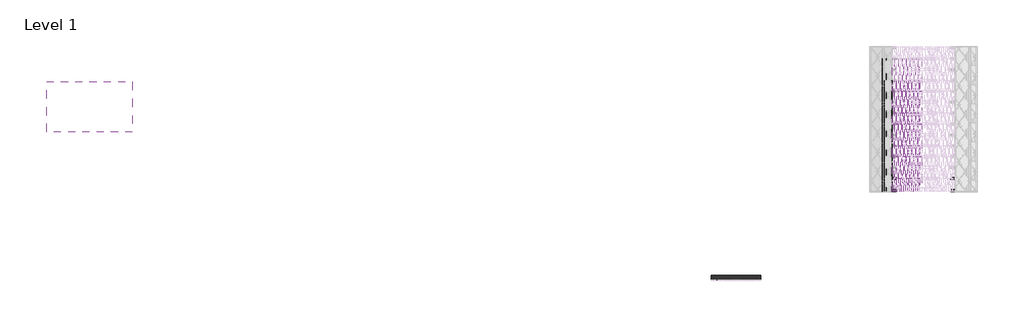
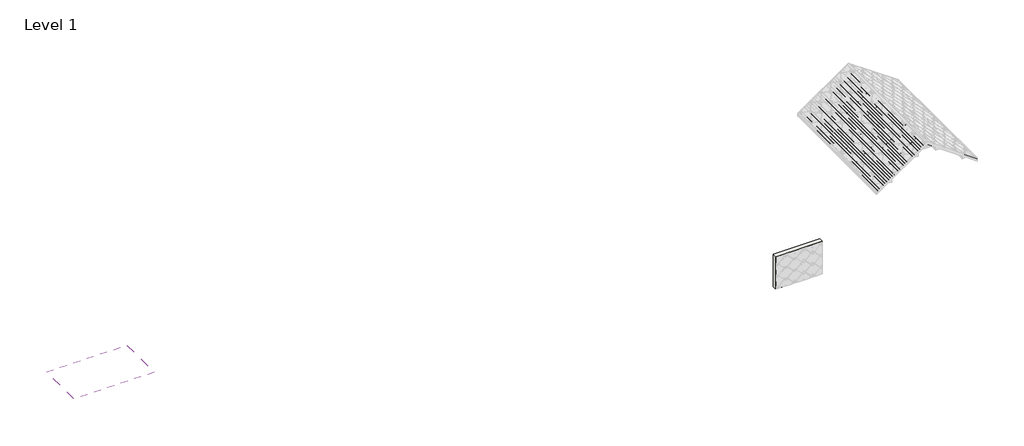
# One storey, part 1 of 6: 106 beams, 1 roof, 1 wall.
"""IFC4 building model written with IfcOpenShell, lengths in millimetres."""

import ifcopenshell
import ifcopenshell.guid

model = None  # the IFC model being written
_history = None  # IfcOwnerHistory: only IFC2X3 demands one
_inside = {}  # id of a spatial element -> (the spatial element, [elements in it])
_under = {}  # id of a project, library or spatial element -> (it, [spatial elements below it])
_declared = {}  # id of a project -> (the project, [libraries it declares])
_typed = {}  # id of a type object -> (the type object, [elements of that type])
_made_of = {}  # id of a material, layer set ... -> (it, [elements and type objects made of it])


def new_model(schema):
    """Start an empty IFC model of exactly this schema.

    Asked for "IFC4X3", IfcOpenShell would pick the latest addendum, in which some entities
    have other attributes; the version numbers below select the first issue.
    IFC2X3 requires an IfcOwnerHistory on every rooted entity: one is made here for all.
    """
    global model, _history
    if schema == "IFC4X3":
        model = ifcopenshell.file(schema_version=(4, 3, 0, 0))
    else:
        model = ifcopenshell.file(schema=schema)
    _inside.clear()
    _under.clear()
    _declared.clear()
    _typed.clear()
    _made_of.clear()
    _history = None
    if model.schema == "IFC2X3":
        org = make("IfcOrganization", Name="unknown")
        user = make(
            "IfcPersonAndOrganization",
            ThePerson=make("IfcPerson", FamilyName="unknown"),
            TheOrganization=org,
        )
        app = make(
            "IfcApplication",
            ApplicationDeveloper=org,
            Version="unknown",
            ApplicationFullName="unknown",
            ApplicationIdentifier="unknown",
        )
        _history = make(
            "IfcOwnerHistory",
            OwningUser=user,
            OwningApplication=app,
            ChangeAction="ADDED",
            CreationDate=0,
        )
    return model


def make(cls, **values):
    """One entity of the class cls with the attributes given. An attribute that is None is left unset."""
    return model.create_entity(
        cls, **{name: value for name, value in values.items() if value is not None}
    )


def rooted(cls, **values):
    """An entity with a GlobalId (a new one), such as an element, a storey or a relation."""
    return make(cls, GlobalId=ifcopenshell.guid.new(), OwnerHistory=_history, **values)


def si_unit(unit_type, name, prefix=None):
    """IfcSIUnit, for example si_unit("LENGTHUNIT", "METRE", prefix="MILLI")."""
    return make("IfcSIUnit", UnitType=unit_type, Prefix=prefix, Name=name)


def assignment(units):
    """IfcUnitAssignment: the units of a project."""
    return None if units is None else make("IfcUnitAssignment", Units=units)


def point(xyz):
    """IfcCartesianPoint."""
    return None if xyz is None else make("IfcCartesianPoint", Coordinates=xyz)


def direction(xyz):
    """IfcDirection."""
    return None if xyz is None else make("IfcDirection", DirectionRatios=xyz)


def frame(location, z_axis=None, x_axis=None):
    """IfcAxis2Placement3D, a coordinate frame: its origin and axes. An axis left out is left unset."""
    return make(
        "IfcAxis2Placement3D",
        Location=point(location),
        Axis=direction(z_axis),
        RefDirection=direction(x_axis),
    )


def origin():
    """The frame at (0, 0, 0) with its axes left unset."""
    return frame((0.0, 0.0, 0.0))


def origin_with_axes():
    """The frame at (0, 0, 0) with the z axis (0, 0, 1) and the x axis (1, 0, 0) written out."""
    return frame((0.0, 0.0, 0.0), z_axis=(0.0, 0.0, 1.0), x_axis=(1.0, 0.0, 0.0))


def place(relative_to, where):
    """IfcLocalPlacement: puts the frame where relative to a parent placement (None: the world)."""
    return make(
        "IfcLocalPlacement", PlacementRelTo=relative_to, RelativePlacement=where
    )


def context(
    kind, dimensions, precision=None, world=None, true_north=None, identifier=None
):
    """IfcGeometricRepresentationContext, for example the 3D "Model" context."""
    return make(
        "IfcGeometricRepresentationContext",
        ContextIdentifier=identifier,
        ContextType=kind,
        CoordinateSpaceDimension=dimensions,
        Precision=precision,
        WorldCoordinateSystem=world,
        TrueNorth=true_north,
    )


def project(units=None, contexts=None):
    """IfcProject with its units and contexts."""
    return rooted(
        "IfcProject",
        Name="project",
        RepresentationContexts=contexts,
        UnitsInContext=assignment(units),
    )


def spatial(cls, under=None, at=None, **own):
    """A site, building, storey or space (cls), placed at a placement, below another one or the project."""
    s = rooted(cls, ObjectPlacement=at, **own)
    if under is not None:
        _under.setdefault(under.id(), (under, []))[1].append(s)
    return s


def polyline(points):
    """IfcPolyline through the points."""
    return make("IfcPolyline", Points=[point(p) for p in points])


def outline(outer, holes=None, kind="AREA"):
    """IfcArbitraryClosedProfileDef: a profile drawn as a closed curve; with holes, ...WithVoids."""
    if holes is None:
        return make("IfcArbitraryClosedProfileDef", ProfileType=kind, OuterCurve=outer)
    return make(
        "IfcArbitraryProfileDefWithVoids",
        ProfileType=kind,
        OuterCurve=outer,
        InnerCurves=holes,
    )


def extrude(swept, where, along, depth):
    """IfcExtrudedAreaSolid: the profile swept, set in the frame where, extruded along a direction by depth."""
    return make(
        "IfcExtrudedAreaSolid",
        SweptArea=swept,
        Position=where,
        ExtrudedDirection=direction(along),
        Depth=depth,
    )


def faces_of(points, faces, orient=None, outer=None):
    """IfcFace entities. A face is a list of loops; a loop is a list of indices into points, from 0.

    orient and outer hold one flag for each loop. By default every Orientation is true, the
    first loop of a face is its IfcFaceOuterBound and the others are IfcFaceBound.
    """
    made = []
    for i, loops in enumerate(faces):
        bounds = []
        for j, loop in enumerate(loops):
            is_outer = j == 0 if outer is None else outer[i][j]
            bounds.append(
                make(
                    "IfcFaceOuterBound" if is_outer else "IfcFaceBound",
                    Bound=make("IfcPolyLoop", Polygon=[points[k] for k in loop]),
                    Orientation=True if orient is None else orient[i][j],
                )
            )
        made.append(make("IfcFace", Bounds=bounds))
    return made


def faceted_brep(points, faces, orient=None, outer=None, voids=None):
    """IfcFacetedBrep: a solid bounded by flat faces; with voids (closed shells), ...WithVoids."""
    shared = [point(p) for p in points]
    hull = make("IfcClosedShell", CfsFaces=faces_of(shared, faces, orient, outer))
    if voids is None:
        return make("IfcFacetedBrep", Outer=hull)
    return make(
        "IfcFacetedBrepWithVoids",
        Outer=hull,
        Voids=[
            make(cls, CfsFaces=faces_of(shared, fs, o, b)) for cls, fs, o, b in voids
        ],
    )


def shape(context_of_items, identifier, shape_type, items):
    """IfcShapeRepresentation: the items that make up one representation, for example the "Body"."""
    return make(
        "IfcShapeRepresentation",
        ContextOfItems=context_of_items,
        RepresentationIdentifier=identifier,
        RepresentationType=shape_type,
        Items=items,
    )


def source(mapping_origin, context_of_items, identifier, shape_type, items):
    """IfcRepresentationMap: a shape defined once, which mapped items show again and again."""
    return make(
        "IfcRepresentationMap",
        MappingOrigin=mapping_origin,
        MappedRepresentation=shape(context_of_items, identifier, shape_type, items),
    )


def transform(
    local_origin,
    x_axis=None,
    y_axis=None,
    z_axis=None,
    scale=None,
    scale2=None,
    scale3=None,
    uniform=True,
):
    """IfcCartesianTransformationOperator3D, or its non-uniform kind. x_axis, y_axis, z_axis: its Axis1, 2, 3."""
    if uniform:
        return make(
            "IfcCartesianTransformationOperator3D",
            Axis1=direction(x_axis),
            Axis2=direction(y_axis),
            LocalOrigin=point(local_origin),
            Scale=scale,
            Axis3=direction(z_axis),
        )
    return make(
        "IfcCartesianTransformationOperator3DnonUniform",
        Axis1=direction(x_axis),
        Axis2=direction(y_axis),
        LocalOrigin=point(local_origin),
        Scale=scale,
        Axis3=direction(z_axis),
        Scale2=scale2,
        Scale3=scale3,
    )


def mapped(mapping_source, mapping_target):
    """IfcMappedItem: shows the shape of a source again, moved by a transform."""
    return make(
        "IfcMappedItem", MappingSource=mapping_source, MappingTarget=mapping_target
    )


def made_of(thing, what):
    """Note that an element or type object is made of a material, layer set ...; save() writes the relation."""
    if what is not None:
        _made_of.setdefault(what.id(), (what, []))[1].append(thing)
    return thing


def element(
    cls,
    number,
    at=None,
    inside=None,
    cuts=None,
    type_object=None,
    material=None,
    context=None,
    identifier="Body",
    shape_type=None,
    held_by="IfcProductDefinitionShape",
    body=None,
    shapes=None,
    **own,
):
    """One element of the class cls, such as IfcWall. Its Tag is "e" and its number.

    at: its placement. inside: the storey or other place that contains it. cuts: it is an
    opening in that element (IfcRelVoidsElement). A single representation is given by context,
    identifier, shape_type and body (its items); several are given by shapes. held_by: the class
    of the entity that holds the representations. save() writes the other relations.
    """
    e = rooted(cls, Tag="e%d" % number, ObjectPlacement=at, **own)
    if body is not None:
        shapes = [shape(context, identifier, shape_type, body)]
    if shapes is not None:
        e.Representation = make(held_by, Representations=shapes)
    if inside is not None:
        _inside.setdefault(inside.id(), (inside, []))[1].append(e)
    if cuts is not None:
        rooted(
            "IfcRelVoidsElement", RelatingBuildingElement=cuts, RelatedOpeningElement=e
        )
    if type_object is not None:
        _typed.setdefault(type_object.id(), (type_object, []))[1].append(e)
    return made_of(e, material)


def aggregate(whole, parts):
    """IfcRelAggregates: a whole, such as a stair, and the parts it consists of."""
    return rooted("IfcRelAggregates", RelatingObject=whole, RelatedObjects=parts)


def save(model, path):
    """Write the relations noted so far, then the file.

    IfcRelAggregates (storeys below a building ...), IfcRelContainedInSpatialStructure (elements
    in a storey), IfcRelDefinesByType, IfcRelAssociatesMaterial and IfcRelDeclares: one each for
    every whole, place, type object, material and project.
    """
    for whole, parts in _under.values():
        aggregate(whole, parts)
    for where, things in _inside.values():
        rooted(
            "IfcRelContainedInSpatialStructure",
            RelatedElements=things,
            RelatingStructure=where,
        )
    for kind, things in _typed.values():
        rooted("IfcRelDefinesByType", RelatedObjects=things, RelatingType=kind)
    for what, things in _made_of.values():
        rooted("IfcRelAssociatesMaterial", RelatedObjects=things, RelatingMaterial=what)
    for by, libraries in _declared.values():
        rooted("IfcRelDeclares", RelatingContext=by, RelatedDefinitions=libraries)
    model.write(path)


def structural_framing_100_structural_framing_15_5def26a6(model_context):
    return source(origin(), model_context, "Body", "SweptSolid", [
        extrude(outline(polyline([(0.0, -174.3446796), (0.0, 0.0), (2400.0, 0.0), (2400.0, -174.3446796), (0.0, -174.3446796)])), frame((1206.7789073, 3925.5508021, 2800.0), z_axis=(-0.5735764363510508, 0.0, 0.8191520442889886), x_axis=(0.0, -1.0, 0.0)), (0.0, 0.0, 1.0), 25.0),
    ])


def structural_framing_101_structural_framing_15_d9cf2b80(model_context):
    return source(origin(), model_context, "Body", "SweptSolid", [
        extrude(outline(polyline([(0.0, -174.3446796), (0.0, 0.0), (2400.0, 0.0), (2400.0, -174.3446796), (0.0, -174.3446796)])), frame((1206.7789073, 3995.5508021, 2800.0), z_axis=(-0.5735764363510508, 0.0, 0.8191520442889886), x_axis=(0.0, -1.0, 0.0)), (0.0, 0.0, 1.0), 25.0),
    ])


def structural_framing_103_structural_framing_15_b869128d(model_context):
    return source(origin(), model_context, "Body", "SweptSolid", [
        extrude(outline(polyline([(0.0, -174.3446796), (0.0, 0.0), (2558.4556079, 0.0), (2558.4556079, -174.3446796), (0.0, -174.3446796)])), frame((1206.7789073, 3995.5508021, 2800.0), z_axis=(-0.5735764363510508, 0.0, 0.8191520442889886), x_axis=(0.0, -1.0, 0.0)), (0.0, 0.0, 1.0), 25.0),
    ])


def structural_framing_109_structural_framing_15_08dff260(model_context):
    return source(origin(), model_context, "Body", "SweptSolid", [
        extrude(outline(polyline([(0.0, -174.3446796), (0.0, 0.0), (958.4556079, 0.0), (958.4556079, -174.3446796), (0.0, -174.3446796)])), frame((1206.7789073, 3925.5508021, 2800.0), z_axis=(-0.5735764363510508, 0.0, 0.8191520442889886), x_axis=(0.0, -1.0, 0.0)), (0.0, 0.0, 1.0), 25.0),
    ])


def structural_framing_1_structural_framing_1_4f4e03de(model_context):
    return source(origin(), model_context, "Body", "SweptSolid", [
        extrude(outline(polyline([(2800.0, 1206.7789073), (51.1319528, -2719.0115151), (-144.1919814, -2719.0115151), (542.0114061, -1739.0115151), (656.0155568, -1739.0115151), (656.0155568, -1576.1967145), (1975.9524969, 308.8685956), (2089.9566477, 308.8685956), (2089.9566477, 471.6833963), (2604.6760658, 1206.7789073), (2089.9566477, 1941.8744183), (2089.9566477, 2104.6892189), (1975.9524969, 2104.6892189), (656.0155568, 3989.754529), (656.0155568, 4152.5693297), (542.0114061, 4152.5693297), (-144.1919814, 5132.5693297), (51.1319528, 5132.5693297), (2800.0, 1206.7789073)])), frame((0.0, 3785.5508021, 0.0), z_axis=(0.0, 1.0, 0.0), x_axis=(0.0, 0.0, 1.0)), (0.0, 0.0, 1.0), 140.0),
    ])


def structural_framing_14_structural_framing_1_1f79d0da(model_context):
    return source(origin(), model_context, "Body", "Brep", [
        faceted_brep([(1206.7789073, 3925.5508021, 2800.0), (5132.5693297, 3925.5508021, 51.1319528), (5132.5693297, 3925.5508021, -144.1919814), (4152.5693297, 3925.5508021, 542.0114061), (4152.5693297, 3925.5508021, 656.0155568), (3989.754529, 3925.5508021, 656.0155568), (2104.6892189, 3925.5508021, 1975.9524969), (2104.6892189, 3925.5508021, 2089.9566477), (1941.8744183, 3925.5508021, 2089.9566477), (1206.7789073, 3925.5508021, 2604.6760658), (471.6833963, 3925.5508021, 2089.9566477), (308.8685956, 3925.5508021, 2089.9566477), (308.8685956, 3925.5508021, 1975.9524969), (-1576.1967145, 3925.5508021, 656.0155568), (-1739.0115151, 3925.5508021, 656.0155568), (-1739.0115151, 3925.5508021, 542.0114061), (-2719.0115151, 3925.5508021, -144.1919814), (-2719.0115151, 3925.5508021, 51.1319528), (1206.7789073, 3785.5508021, 2800.0), (-2719.0115151, 3785.5508021, 51.1319528), (-2719.0115151, 3785.5508021, -144.1919814), (1206.7789073, 3785.5508021, 2604.6760658), (5132.5693297, 3785.5508021, -144.1919814), (5132.5693297, 3785.5508021, 51.1319528), (1941.8744183, 3906.5064101, 2089.9566477), (2104.6892189, 3906.5064101, 1975.9524969), (3989.754529, 3906.5064101, 656.0155568), (4152.5693297, 3906.5064101, 542.0114061), (-1739.0115151, 3906.5064101, 542.0114061), (-1576.1967145, 3906.5064101, 656.0155568), (308.8685956, 3906.5064101, 1975.9524969), (471.6833963, 3906.5064101, 2089.9566477), (4152.5693297, 3906.5064101, 656.0155568), (-1739.0115151, 3906.5064101, 656.0155568), (308.8685956, 3906.5064101, 2089.9566477), (2104.6892189, 3906.5064101, 2089.9566477)], [[[0, 1, 2, 3, 4, 5, 6, 7, 8, 9, 10, 11, 12, 13, 14, 15, 16, 17]], [[18, 19, 20, 21, 22, 23]], [[1, 0, 18, 23]], [[2, 1, 23, 22]], [[22, 21, 9, 8, 24, 25, 6, 5, 26, 27, 3, 2]], [[21, 20, 16, 15, 28, 29, 13, 12, 30, 31, 10, 9]], [[17, 16, 20, 19]], [[0, 17, 19, 18]], [[32, 27, 26]], [[29, 33, 14, 13]], [[33, 28, 15, 14]], [[27, 32, 4, 3]], [[32, 26, 5, 4]], [[31, 34, 11, 10]], [[34, 30, 12, 11]], [[25, 35, 7, 6]], [[35, 24, 8, 7]], [[35, 25, 24]], [[34, 31, 30]], [[33, 29, 28]]]),
    ])


model = new_model("IFC4")

# Units and contexts
model_context = context("Model", 3, world=origin())
ifc_project = project(units=[si_unit("LENGTHUNIT", "METRE", prefix="MILLI")], contexts=[model_context])

# Site, building, storey
site = spatial("IfcSite", under=ifc_project)
building = spatial("IfcBuilding", under=site)
storey = spatial("IfcBuildingStorey", under=building, Name="Level 1", Elevation=0.0)

# Beams
placement = place(None, origin())
structural_framing_100_structural_framing_15_shape = structural_framing_100_structural_framing_15_5def26a6(model_context)
element("IfcBeam", 1, ObjectType="Structural Framing 100 : Structural Framing 15", at=placement, inside=storey, context=model_context, shape_type="MappedRepresentation", body=[
    mapped(structural_framing_100_structural_framing_15_shape, transform((-2427.8516115, -870.0, -1700.0), x_axis=(1.0, 0.0, 0.0), y_axis=(0.0, 1.0, 0.0), z_axis=(0.0, 0.0, 1.0))),
])
structural_framing_101_structural_framing_15_shape = structural_framing_101_structural_framing_15_d9cf2b80(model_context)
element("IfcBeam", 2, ObjectType="Structural Framing 101 : Structural Framing 15", at=placement, inside=storey, context=model_context, shape_type="MappedRepresentation", body=[
    mapped(structural_framing_101_structural_framing_15_shape, transform((-2427.8516115, -3340.0, -1700.0), x_axis=(1.0, 0.0, 0.0), y_axis=(0.0, 1.0, 0.0), z_axis=(0.0, 0.0, 1.0))),
])
element("IfcBeam", 3, ObjectType="Structural Framing 102 : Structural Framing 15", at=placement, inside=storey, context=model_context, shape_type="MappedRepresentation", body=[
    mapped(structural_framing_101_structural_framing_15_shape, transform((-2427.8516115, -5740.0, -1700.0), x_axis=(1.0, 0.0, 0.0), y_axis=(0.0, 1.0, 0.0), z_axis=(0.0, 0.0, 1.0))),
])
structural_framing_103_structural_framing_15_shape = structural_framing_103_structural_framing_15_b869128d(model_context)
element("IfcBeam", 4, ObjectType="Structural Framing 103 : Structural Framing 15", at=placement, inside=storey, context=model_context, shape_type="MappedRepresentation", body=[
    mapped(structural_framing_103_structural_framing_15_shape, transform((-2427.8516115, -8140.0, -1700.0), x_axis=(1.0, 0.0, 0.0), y_axis=(0.0, 1.0, 0.0), z_axis=(0.0, 0.0, 1.0))),
])
element("IfcBeam", 5, ObjectType="Structural Framing 106 : Structural Framing 15", at=placement, inside=storey, context=model_context, shape_type="MappedRepresentation", body=[
    mapped(structural_framing_100_structural_framing_15_shape, transform((-2570.6664121, -2470.0, -1800.0), x_axis=(1.0, 0.0, 0.0), y_axis=(0.0, 1.0, 0.0), z_axis=(0.0, 0.0, 1.0))),
])
element("IfcBeam", 6, ObjectType="Structural Framing 107 : Structural Framing 15", at=placement, inside=storey, context=model_context, shape_type="MappedRepresentation", body=[
    mapped(structural_framing_100_structural_framing_15_shape, transform((-2570.6664121, -4870.0, -1800.0), x_axis=(1.0, 0.0, 0.0), y_axis=(0.0, 1.0, 0.0), z_axis=(0.0, 0.0, 1.0))),
])
element("IfcBeam", 7, ObjectType="Structural Framing 108 : Structural Framing 15", at=placement, inside=storey, context=model_context, shape_type="MappedRepresentation", body=[
    mapped(structural_framing_100_structural_framing_15_shape, transform((-2570.6664121, -7270.0, -1800.0), x_axis=(1.0, 0.0, 0.0), y_axis=(0.0, 1.0, 0.0), z_axis=(0.0, 0.0, 1.0))),
])
structural_framing_109_structural_framing_15_shape = structural_framing_109_structural_framing_15_08dff260(model_context)
element("IfcBeam", 8, ObjectType="Structural Framing 109 : Structural Framing 15", at=placement, inside=storey, context=model_context, shape_type="MappedRepresentation", body=[
    mapped(structural_framing_109_structural_framing_15_shape, transform((-2570.6664121, -9670.0, -1800.0), x_axis=(1.0, 0.0, 0.0), y_axis=(0.0, 1.0, 0.0), z_axis=(0.0, 0.0, 1.0))),
])
element("IfcBeam", 9, ObjectType="Structural Framing 110 : Structural Framing 15", at=placement, inside=storey, context=model_context, shape_type="MappedRepresentation", body=[
    mapped(structural_framing_100_structural_framing_15_shape, transform((-2713.4812128, -870.0, -1900.0), x_axis=(1.0, 0.0, 0.0), y_axis=(0.0, 1.0, 0.0), z_axis=(0.0, 0.0, 1.0))),
])
element("IfcBeam", 10, ObjectType="Structural Framing 111 : Structural Framing 15", at=placement, inside=storey, context=model_context, shape_type="MappedRepresentation", body=[
    mapped(structural_framing_101_structural_framing_15_shape, transform((-2713.4812128, -3340.0, -1900.0), x_axis=(1.0, 0.0, 0.0), y_axis=(0.0, 1.0, 0.0), z_axis=(0.0, 0.0, 1.0))),
])
element("IfcBeam", 11, ObjectType="Structural Framing 112 : Structural Framing 15", at=placement, inside=storey, context=model_context, shape_type="MappedRepresentation", body=[
    mapped(structural_framing_101_structural_framing_15_shape, transform((-2713.4812128, -5740.0, -1900.0), x_axis=(1.0, 0.0, 0.0), y_axis=(0.0, 1.0, 0.0), z_axis=(0.0, 0.0, 1.0))),
])
element("IfcBeam", 12, ObjectType="Structural Framing 113 : Structural Framing 15", at=placement, inside=storey, context=model_context, shape_type="MappedRepresentation", body=[
    mapped(structural_framing_103_structural_framing_15_shape, transform((-2713.4812128, -8140.0, -1900.0), x_axis=(1.0, 0.0, 0.0), y_axis=(0.0, 1.0, 0.0), z_axis=(0.0, 0.0, 1.0))),
])
element("IfcBeam", 13, ObjectType="Structural Framing 116 : Structural Framing 15", at=placement, inside=storey, context=model_context, shape_type="MappedRepresentation", body=[
    mapped(structural_framing_100_structural_framing_15_shape, transform((-2856.2960135, -2470.0, -2000.0), x_axis=(1.0, 0.0, 0.0), y_axis=(0.0, 1.0, 0.0), z_axis=(0.0, 0.0, 1.0))),
])
element("IfcBeam", 14, ObjectType="Structural Framing 117 : Structural Framing 15", at=placement, inside=storey, context=model_context, shape_type="MappedRepresentation", body=[
    mapped(structural_framing_100_structural_framing_15_shape, transform((-2856.2960135, -4870.0, -2000.0), x_axis=(1.0, 0.0, 0.0), y_axis=(0.0, 1.0, 0.0), z_axis=(0.0, 0.0, 1.0))),
])
element("IfcBeam", 15, ObjectType="Structural Framing 118 : Structural Framing 15", at=placement, inside=storey, context=model_context, shape_type="MappedRepresentation", body=[
    mapped(structural_framing_100_structural_framing_15_shape, transform((-2856.2960135, -7270.0, -2000.0), x_axis=(1.0, 0.0, 0.0), y_axis=(0.0, 1.0, 0.0), z_axis=(0.0, 0.0, 1.0))),
])
element("IfcBeam", 16, ObjectType="Structural Framing 119 : Structural Framing 15", at=placement, inside=storey, context=model_context, shape_type="MappedRepresentation", body=[
    mapped(structural_framing_109_structural_framing_15_shape, transform((-2856.2960135, -9670.0, -2000.0), x_axis=(1.0, 0.0, 0.0), y_axis=(0.0, 1.0, 0.0), z_axis=(0.0, 0.0, 1.0))),
])
element("IfcBeam", 17, ObjectType="Structural Framing 120 : Structural Framing 15", at=placement, inside=storey, context=model_context, shape_type="MappedRepresentation", body=[
    mapped(structural_framing_100_structural_framing_15_shape, transform((-2999.1108142, -870.0, -2100.0), x_axis=(1.0, 0.0, 0.0), y_axis=(0.0, 1.0, 0.0), z_axis=(0.0, 0.0, 1.0))),
])
element("IfcBeam", 18, ObjectType="Structural Framing 121 : Structural Framing 15", at=placement, inside=storey, context=model_context, shape_type="MappedRepresentation", body=[
    mapped(structural_framing_101_structural_framing_15_shape, transform((-2999.1108142, -3340.0, -2100.0), x_axis=(1.0, 0.0, 0.0), y_axis=(0.0, 1.0, 0.0), z_axis=(0.0, 0.0, 1.0))),
])
element("IfcBeam", 19, ObjectType="Structural Framing 122 : Structural Framing 15", at=placement, inside=storey, context=model_context, shape_type="MappedRepresentation", body=[
    mapped(structural_framing_101_structural_framing_15_shape, transform((-2999.1108142, -5740.0, -2100.0), x_axis=(1.0, 0.0, 0.0), y_axis=(0.0, 1.0, 0.0), z_axis=(0.0, 0.0, 1.0))),
])
element("IfcBeam", 20, ObjectType="Structural Framing 123 : Structural Framing 15", at=placement, inside=storey, context=model_context, shape_type="MappedRepresentation", body=[
    mapped(structural_framing_103_structural_framing_15_shape, transform((-2999.1108142, -8140.0, -2100.0), x_axis=(1.0, 0.0, 0.0), y_axis=(0.0, 1.0, 0.0), z_axis=(0.0, 0.0, 1.0))),
])
element("IfcBeam", 21, ObjectType="Structural Framing 126 : Structural Framing 15", at=placement, inside=storey, context=model_context, shape_type="MappedRepresentation", body=[
    mapped(structural_framing_100_structural_framing_15_shape, transform((-3141.9256148, -2470.0, -2200.0), x_axis=(1.0, 0.0, 0.0), y_axis=(0.0, 1.0, 0.0), z_axis=(0.0, 0.0, 1.0))),
])
element("IfcBeam", 22, ObjectType="Structural Framing 127 : Structural Framing 15", at=placement, inside=storey, context=model_context, shape_type="MappedRepresentation", body=[
    mapped(structural_framing_100_structural_framing_15_shape, transform((-3141.9256148, -4870.0, -2200.0), x_axis=(1.0, 0.0, 0.0), y_axis=(0.0, 1.0, 0.0), z_axis=(0.0, 0.0, 1.0))),
])
element("IfcBeam", 23, ObjectType="Structural Framing 128 : Structural Framing 15", at=placement, inside=storey, context=model_context, shape_type="MappedRepresentation", body=[
    mapped(structural_framing_100_structural_framing_15_shape, transform((-3141.9256148, -7270.0, -2200.0), x_axis=(1.0, 0.0, 0.0), y_axis=(0.0, 1.0, 0.0), z_axis=(0.0, 0.0, 1.0))),
])
element("IfcBeam", 24, ObjectType="Structural Framing 129 : Structural Framing 15", at=placement, inside=storey, context=model_context, shape_type="MappedRepresentation", body=[
    mapped(structural_framing_109_structural_framing_15_shape, transform((-3141.9256148, -9670.0, -2200.0), x_axis=(1.0, 0.0, 0.0), y_axis=(0.0, 1.0, 0.0), z_axis=(0.0, 0.0, 1.0))),
])
structural_framing_1_structural_framing_1_shape = structural_framing_1_structural_framing_1_4f4e03de(model_context)
element("IfcBeam", 25, ObjectType="Structural Framing 13 : Structural Framing 1", at=placement, inside=storey, context=model_context, shape_type="MappedRepresentation", body=[
    mapped(structural_framing_1_structural_framing_1_shape, transform((0.0, -9600.0, 0.0), x_axis=(1.0, 0.0, 0.0), y_axis=(0.0, 1.0, 0.0), z_axis=(0.0, 0.0, 1.0))),
])
element("IfcBeam", 26, ObjectType="Structural Framing 130 : Structural Framing 15", at=placement, inside=storey, context=model_context, shape_type="MappedRepresentation", body=[
    mapped(structural_framing_100_structural_framing_15_shape, transform((-3284.7404155, -870.0, -2300.0), x_axis=(1.0, 0.0, 0.0), y_axis=(0.0, 1.0, 0.0), z_axis=(0.0, 0.0, 1.0))),
])
element("IfcBeam", 27, ObjectType="Structural Framing 131 : Structural Framing 15", at=placement, inside=storey, context=model_context, shape_type="MappedRepresentation", body=[
    mapped(structural_framing_101_structural_framing_15_shape, transform((-3284.7404155, -3340.0, -2300.0), x_axis=(1.0, 0.0, 0.0), y_axis=(0.0, 1.0, 0.0), z_axis=(0.0, 0.0, 1.0))),
])
element("IfcBeam", 28, ObjectType="Structural Framing 132 : Structural Framing 15", at=placement, inside=storey, context=model_context, shape_type="MappedRepresentation", body=[
    mapped(structural_framing_101_structural_framing_15_shape, transform((-3284.7404155, -5740.0, -2300.0), x_axis=(1.0, 0.0, 0.0), y_axis=(0.0, 1.0, 0.0), z_axis=(0.0, 0.0, 1.0))),
])
element("IfcBeam", 29, ObjectType="Structural Framing 133 : Structural Framing 15", at=placement, inside=storey, context=model_context, shape_type="MappedRepresentation", body=[
    mapped(structural_framing_103_structural_framing_15_shape, transform((-3284.7404155, -8140.0, -2300.0), x_axis=(1.0, 0.0, 0.0), y_axis=(0.0, 1.0, 0.0), z_axis=(0.0, 0.0, 1.0))),
])
element("IfcBeam", 30, ObjectType="Structural Framing 136 : Structural Framing 15", at=placement, inside=storey, context=model_context, shape_type="MappedRepresentation", body=[
    mapped(structural_framing_100_structural_framing_15_shape, transform((-3427.5552162, -2470.0, -2400.0), x_axis=(1.0, 0.0, 0.0), y_axis=(0.0, 1.0, 0.0), z_axis=(0.0, 0.0, 1.0))),
])
element("IfcBeam", 31, ObjectType="Structural Framing 137 : Structural Framing 15", at=placement, inside=storey, context=model_context, shape_type="MappedRepresentation", body=[
    mapped(structural_framing_100_structural_framing_15_shape, transform((-3427.5552162, -4870.0, -2400.0), x_axis=(1.0, 0.0, 0.0), y_axis=(0.0, 1.0, 0.0), z_axis=(0.0, 0.0, 1.0))),
])
element("IfcBeam", 32, ObjectType="Structural Framing 138 : Structural Framing 15", at=placement, inside=storey, context=model_context, shape_type="MappedRepresentation", body=[
    mapped(structural_framing_100_structural_framing_15_shape, transform((-3427.5552162, -7270.0, -2400.0), x_axis=(1.0, 0.0, 0.0), y_axis=(0.0, 1.0, 0.0), z_axis=(0.0, 0.0, 1.0))),
])
element("IfcBeam", 33, ObjectType="Structural Framing 139 : Structural Framing 15", at=placement, inside=storey, context=model_context, shape_type="MappedRepresentation", body=[
    mapped(structural_framing_109_structural_framing_15_shape, transform((-3427.5552162, -9670.0, -2400.0), x_axis=(1.0, 0.0, 0.0), y_axis=(0.0, 1.0, 0.0), z_axis=(0.0, 0.0, 1.0))),
])
structural_framing_14_structural_framing_1_shape = structural_framing_14_structural_framing_1_1f79d0da(model_context)
element("IfcBeam", 34, ObjectType="Structural Framing 14 : Structural Framing 1", at=placement, inside=storey, context=model_context, shape_type="MappedRepresentation", body=[
    mapped(structural_framing_14_structural_framing_1_shape, transform((0.0, -10488.455608, 0.0), x_axis=(1.0, 0.0, 0.0), y_axis=(0.0, 1.0, 0.0), z_axis=(0.0, 0.0, 1.0))),
])
element("IfcBeam", 35, ObjectType="Structural Framing 140 : Structural Framing 15", at=placement, inside=storey, context=model_context, shape_type="MappedRepresentation", body=[
    mapped(structural_framing_100_structural_framing_15_shape, transform((-3570.3700169, -870.0, -2500.0), x_axis=(1.0, 0.0, 0.0), y_axis=(0.0, 1.0, 0.0), z_axis=(0.0, 0.0, 1.0))),
])
element("IfcBeam", 36, ObjectType="Structural Framing 141 : Structural Framing 15", at=placement, inside=storey, context=model_context, shape_type="MappedRepresentation", body=[
    mapped(structural_framing_101_structural_framing_15_shape, transform((-3570.3700169, -3340.0, -2500.0), x_axis=(1.0, 0.0, 0.0), y_axis=(0.0, 1.0, 0.0), z_axis=(0.0, 0.0, 1.0))),
])
element("IfcBeam", 37, ObjectType="Structural Framing 142 : Structural Framing 15", at=placement, inside=storey, context=model_context, shape_type="MappedRepresentation", body=[
    mapped(structural_framing_101_structural_framing_15_shape, transform((-3570.3700169, -5740.0, -2500.0), x_axis=(1.0, 0.0, 0.0), y_axis=(0.0, 1.0, 0.0), z_axis=(0.0, 0.0, 1.0))),
])
element("IfcBeam", 38, ObjectType="Structural Framing 143 : Structural Framing 15", at=placement, inside=storey, context=model_context, shape_type="MappedRepresentation", body=[
    mapped(structural_framing_103_structural_framing_15_shape, transform((-3570.3700169, -8140.0, -2500.0), x_axis=(1.0, 0.0, 0.0), y_axis=(0.0, 1.0, 0.0), z_axis=(0.0, 0.0, 1.0))),
])
element("IfcBeam", 39, ObjectType="Structural Framing 146 : Structural Framing 15", at=placement, inside=storey, context=model_context, shape_type="MappedRepresentation", body=[
    mapped(structural_framing_100_structural_framing_15_shape, transform((-3713.1848175, -2470.0, -2600.0), x_axis=(1.0, 0.0, 0.0), y_axis=(0.0, 1.0, 0.0), z_axis=(0.0, 0.0, 1.0))),
])
element("IfcBeam", 40, ObjectType="Structural Framing 147 : Structural Framing 15", at=placement, inside=storey, context=model_context, shape_type="MappedRepresentation", body=[
    mapped(structural_framing_100_structural_framing_15_shape, transform((-3713.1848175, -4870.0, -2600.0), x_axis=(1.0, 0.0, 0.0), y_axis=(0.0, 1.0, 0.0), z_axis=(0.0, 0.0, 1.0))),
])
element("IfcBeam", 41, ObjectType="Structural Framing 148 : Structural Framing 15", at=placement, inside=storey, context=model_context, shape_type="MappedRepresentation", body=[
    mapped(structural_framing_100_structural_framing_15_shape, transform((-3713.1848175, -7270.0, -2600.0), x_axis=(1.0, 0.0, 0.0), y_axis=(0.0, 1.0, 0.0), z_axis=(0.0, 0.0, 1.0))),
])
element("IfcBeam", 42, ObjectType="Structural Framing 149 : Structural Framing 15", at=placement, inside=storey, context=model_context, shape_type="MappedRepresentation", body=[
    mapped(structural_framing_109_structural_framing_15_shape, transform((-3713.1848175, -9670.0, -2600.0), x_axis=(1.0, 0.0, 0.0), y_axis=(0.0, 1.0, 0.0), z_axis=(0.0, 0.0, 1.0))),
])
element("IfcBeam", 43, ObjectType="Structural Framing 20 : Structural Framing 15", at=placement, inside=storey, context=model_context, shape_type="MappedRepresentation", body=[
    mapped(structural_framing_100_structural_framing_15_shape, transform((-142.8148007, -870.0, -100.0), x_axis=(1.0, 0.0, 0.0), y_axis=(0.0, 1.0, 0.0), z_axis=(0.0, 0.0, 1.0))),
])
element("IfcBeam", 44, ObjectType="Structural Framing 21 : Structural Framing 15", at=placement, inside=storey, context=model_context, shape_type="MappedRepresentation", body=[
    mapped(structural_framing_101_structural_framing_15_shape, transform((-142.8148007, -3340.0, -100.0), x_axis=(1.0, 0.0, 0.0), y_axis=(0.0, 1.0, 0.0), z_axis=(0.0, 0.0, 1.0))),
])
element("IfcBeam", 45, ObjectType="Structural Framing 22 : Structural Framing 15", at=placement, inside=storey, context=model_context, shape_type="MappedRepresentation", body=[
    mapped(structural_framing_101_structural_framing_15_shape, transform((-142.8148007, -5740.0, -100.0), x_axis=(1.0, 0.0, 0.0), y_axis=(0.0, 1.0, 0.0), z_axis=(0.0, 0.0, 1.0))),
])
element("IfcBeam", 46, ObjectType="Structural Framing 23 : Structural Framing 15", at=placement, inside=storey, context=model_context, shape_type="MappedRepresentation", body=[
    mapped(structural_framing_103_structural_framing_15_shape, transform((-142.8148007, -8140.0, -100.0), x_axis=(1.0, 0.0, 0.0), y_axis=(0.0, 1.0, 0.0), z_axis=(0.0, 0.0, 1.0))),
])
element("IfcBeam", 47, ObjectType="Structural Framing 26 : Structural Framing 15", at=placement, inside=storey, context=model_context, shape_type="MappedRepresentation", body=[
    mapped(structural_framing_100_structural_framing_15_shape, transform((-285.6296013, -2470.0, -200.0), x_axis=(1.0, 0.0, 0.0), y_axis=(0.0, 1.0, 0.0), z_axis=(0.0, 0.0, 1.0))),
])
element("IfcBeam", 48, ObjectType="Structural Framing 27 : Structural Framing 15", at=placement, inside=storey, context=model_context, shape_type="MappedRepresentation", body=[
    mapped(structural_framing_100_structural_framing_15_shape, transform((-285.6296013, -4870.0, -200.0), x_axis=(1.0, 0.0, 0.0), y_axis=(0.0, 1.0, 0.0), z_axis=(0.0, 0.0, 1.0))),
])
element("IfcBeam", 49, ObjectType="Structural Framing 28 : Structural Framing 15", at=placement, inside=storey, context=model_context, shape_type="MappedRepresentation", body=[
    mapped(structural_framing_100_structural_framing_15_shape, transform((-285.6296013, -7270.0, -200.0), x_axis=(1.0, 0.0, 0.0), y_axis=(0.0, 1.0, 0.0), z_axis=(0.0, 0.0, 1.0))),
])
element("IfcBeam", 50, ObjectType="Structural Framing 29 : Structural Framing 15", at=placement, inside=storey, context=model_context, shape_type="MappedRepresentation", body=[
    mapped(structural_framing_109_structural_framing_15_shape, transform((-285.6296013, -9670.0, -200.0), x_axis=(1.0, 0.0, 0.0), y_axis=(0.0, 1.0, 0.0), z_axis=(0.0, 0.0, 1.0))),
])
element("IfcBeam", 51, ObjectType="Structural Framing 30 : Structural Framing 15", at=placement, inside=storey, context=model_context, shape_type="MappedRepresentation", body=[
    mapped(structural_framing_100_structural_framing_15_shape, transform((-428.444402, -870.0, -300.0), x_axis=(1.0, 0.0, 0.0), y_axis=(0.0, 1.0, 0.0), z_axis=(0.0, 0.0, 1.0))),
])
element("IfcBeam", 52, ObjectType="Structural Framing 31 : Structural Framing 15", at=placement, inside=storey, context=model_context, shape_type="MappedRepresentation", body=[
    mapped(structural_framing_101_structural_framing_15_shape, transform((-428.444402, -3340.0, -300.0), x_axis=(1.0, 0.0, 0.0), y_axis=(0.0, 1.0, 0.0), z_axis=(0.0, 0.0, 1.0))),
])
element("IfcBeam", 53, ObjectType="Structural Framing 32 : Structural Framing 15", at=placement, inside=storey, context=model_context, shape_type="MappedRepresentation", body=[
    mapped(structural_framing_101_structural_framing_15_shape, transform((-428.444402, -5740.0, -300.0), x_axis=(1.0, 0.0, 0.0), y_axis=(0.0, 1.0, 0.0), z_axis=(0.0, 0.0, 1.0))),
])
element("IfcBeam", 54, ObjectType="Structural Framing 33 : Structural Framing 15", at=placement, inside=storey, context=model_context, shape_type="MappedRepresentation", body=[
    mapped(structural_framing_103_structural_framing_15_shape, transform((-428.444402, -8140.0, -300.0), x_axis=(1.0, 0.0, 0.0), y_axis=(0.0, 1.0, 0.0), z_axis=(0.0, 0.0, 1.0))),
])
element("IfcBeam", 55, ObjectType="Structural Framing 36 : Structural Framing 15", at=placement, inside=storey, context=model_context, shape_type="MappedRepresentation", body=[
    mapped(structural_framing_100_structural_framing_15_shape, transform((-571.2592027, -2470.0, -400.0), x_axis=(1.0, 0.0, 0.0), y_axis=(0.0, 1.0, 0.0), z_axis=(0.0, 0.0, 1.0))),
])
element("IfcBeam", 56, ObjectType="Structural Framing 37 : Structural Framing 15", at=placement, inside=storey, context=model_context, shape_type="MappedRepresentation", body=[
    mapped(structural_framing_100_structural_framing_15_shape, transform((-571.2592027, -4870.0, -400.0), x_axis=(1.0, 0.0, 0.0), y_axis=(0.0, 1.0, 0.0), z_axis=(0.0, 0.0, 1.0))),
])
element("IfcBeam", 57, ObjectType="Structural Framing 38 : Structural Framing 15", at=placement, inside=storey, context=model_context, shape_type="MappedRepresentation", body=[
    mapped(structural_framing_100_structural_framing_15_shape, transform((-571.2592027, -7270.0, -400.0), x_axis=(1.0, 0.0, 0.0), y_axis=(0.0, 1.0, 0.0), z_axis=(0.0, 0.0, 1.0))),
])
element("IfcBeam", 58, ObjectType="Structural Framing 39 : Structural Framing 15", at=placement, inside=storey, context=model_context, shape_type="MappedRepresentation", body=[
    mapped(structural_framing_109_structural_framing_15_shape, transform((-571.2592027, -9670.0, -400.0), x_axis=(1.0, 0.0, 0.0), y_axis=(0.0, 1.0, 0.0), z_axis=(0.0, 0.0, 1.0))),
])
element("IfcBeam", 59, ObjectType="Structural Framing 40 : Structural Framing 15", at=placement, inside=storey, context=model_context, shape_type="MappedRepresentation", body=[
    mapped(structural_framing_100_structural_framing_15_shape, transform((-714.0740034, -870.0, -500.0), x_axis=(1.0, 0.0, 0.0), y_axis=(0.0, 1.0, 0.0), z_axis=(0.0, 0.0, 1.0))),
])
element("IfcBeam", 60, ObjectType="Structural Framing 41 : Structural Framing 15", at=placement, inside=storey, context=model_context, shape_type="MappedRepresentation", body=[
    mapped(structural_framing_101_structural_framing_15_shape, transform((-714.0740034, -3340.0, -500.0), x_axis=(1.0, 0.0, 0.0), y_axis=(0.0, 1.0, 0.0), z_axis=(0.0, 0.0, 1.0))),
])
element("IfcBeam", 61, ObjectType="Structural Framing 42 : Structural Framing 15", at=placement, inside=storey, context=model_context, shape_type="MappedRepresentation", body=[
    mapped(structural_framing_101_structural_framing_15_shape, transform((-714.0740034, -5740.0, -500.0), x_axis=(1.0, 0.0, 0.0), y_axis=(0.0, 1.0, 0.0), z_axis=(0.0, 0.0, 1.0))),
])
element("IfcBeam", 62, ObjectType="Structural Framing 43 : Structural Framing 15", at=placement, inside=storey, context=model_context, shape_type="MappedRepresentation", body=[
    mapped(structural_framing_103_structural_framing_15_shape, transform((-714.0740034, -8140.0, -500.0), x_axis=(1.0, 0.0, 0.0), y_axis=(0.0, 1.0, 0.0), z_axis=(0.0, 0.0, 1.0))),
])
element("IfcBeam", 63, ObjectType="Structural Framing 46 : Structural Framing 15", at=placement, inside=storey, context=model_context, shape_type="MappedRepresentation", body=[
    mapped(structural_framing_100_structural_framing_15_shape, transform((-856.888804, -2470.0, -600.0), x_axis=(1.0, 0.0, 0.0), y_axis=(0.0, 1.0, 0.0), z_axis=(0.0, 0.0, 1.0))),
])
element("IfcBeam", 64, ObjectType="Structural Framing 47 : Structural Framing 15", at=placement, inside=storey, context=model_context, shape_type="MappedRepresentation", body=[
    mapped(structural_framing_100_structural_framing_15_shape, transform((-856.888804, -4870.0, -600.0), x_axis=(1.0, 0.0, 0.0), y_axis=(0.0, 1.0, 0.0), z_axis=(0.0, 0.0, 1.0))),
])
element("IfcBeam", 65, ObjectType="Structural Framing 48 : Structural Framing 15", at=placement, inside=storey, context=model_context, shape_type="MappedRepresentation", body=[
    mapped(structural_framing_100_structural_framing_15_shape, transform((-856.888804, -7270.0, -600.0), x_axis=(1.0, 0.0, 0.0), y_axis=(0.0, 1.0, 0.0), z_axis=(0.0, 0.0, 1.0))),
])
element("IfcBeam", 66, ObjectType="Structural Framing 49 : Structural Framing 15", at=placement, inside=storey, context=model_context, shape_type="MappedRepresentation", body=[
    mapped(structural_framing_109_structural_framing_15_shape, transform((-856.888804, -9670.0, -600.0), x_axis=(1.0, 0.0, 0.0), y_axis=(0.0, 1.0, 0.0), z_axis=(0.0, 0.0, 1.0))),
])
element("IfcBeam", 67, ObjectType="Structural Framing 50 : Structural Framing 15", at=placement, inside=storey, context=model_context, shape_type="MappedRepresentation", body=[
    mapped(structural_framing_100_structural_framing_15_shape, transform((-999.7036047, -870.0, -700.0), x_axis=(1.0, 0.0, 0.0), y_axis=(0.0, 1.0, 0.0), z_axis=(0.0, 0.0, 1.0))),
])
element("IfcBeam", 68, ObjectType="Structural Framing 51 : Structural Framing 15", at=placement, inside=storey, context=model_context, shape_type="MappedRepresentation", body=[
    mapped(structural_framing_101_structural_framing_15_shape, transform((-999.7036047, -3340.0, -700.0), x_axis=(1.0, 0.0, 0.0), y_axis=(0.0, 1.0, 0.0), z_axis=(0.0, 0.0, 1.0))),
])
element("IfcBeam", 69, ObjectType="Structural Framing 52 : Structural Framing 15", at=placement, inside=storey, context=model_context, shape_type="MappedRepresentation", body=[
    mapped(structural_framing_101_structural_framing_15_shape, transform((-999.7036047, -5740.0, -700.0), x_axis=(1.0, 0.0, 0.0), y_axis=(0.0, 1.0, 0.0), z_axis=(0.0, 0.0, 1.0))),
])
element("IfcBeam", 70, ObjectType="Structural Framing 53 : Structural Framing 15", at=placement, inside=storey, context=model_context, shape_type="MappedRepresentation", body=[
    mapped(structural_framing_103_structural_framing_15_shape, transform((-999.7036047, -8140.0, -700.0), x_axis=(1.0, 0.0, 0.0), y_axis=(0.0, 1.0, 0.0), z_axis=(0.0, 0.0, 1.0))),
])
element("IfcBeam", 71, ObjectType="Structural Framing 56 : Structural Framing 15", at=placement, inside=storey, context=model_context, shape_type="MappedRepresentation", body=[
    mapped(structural_framing_100_structural_framing_15_shape, transform((-1142.5184054, -2470.0, -800.0), x_axis=(1.0, 0.0, 0.0), y_axis=(0.0, 1.0, 0.0), z_axis=(0.0, 0.0, 1.0))),
])
element("IfcBeam", 72, ObjectType="Structural Framing 57 : Structural Framing 15", at=placement, inside=storey, context=model_context, shape_type="MappedRepresentation", body=[
    mapped(structural_framing_100_structural_framing_15_shape, transform((-1142.5184054, -4870.0, -800.0), x_axis=(1.0, 0.0, 0.0), y_axis=(0.0, 1.0, 0.0), z_axis=(0.0, 0.0, 1.0))),
])
element("IfcBeam", 73, ObjectType="Structural Framing 58 : Structural Framing 15", at=placement, inside=storey, context=model_context, shape_type="MappedRepresentation", body=[
    mapped(structural_framing_100_structural_framing_15_shape, transform((-1142.5184054, -7270.0, -800.0), x_axis=(1.0, 0.0, 0.0), y_axis=(0.0, 1.0, 0.0), z_axis=(0.0, 0.0, 1.0))),
])
element("IfcBeam", 74, ObjectType="Structural Framing 59 : Structural Framing 15", at=placement, inside=storey, context=model_context, shape_type="MappedRepresentation", body=[
    mapped(structural_framing_109_structural_framing_15_shape, transform((-1142.5184054, -9670.0, -800.0), x_axis=(1.0, 0.0, 0.0), y_axis=(0.0, 1.0, 0.0), z_axis=(0.0, 0.0, 1.0))),
])
element("IfcBeam", 75, ObjectType="Structural Framing 60 : Structural Framing 15", at=placement, inside=storey, context=model_context, shape_type="MappedRepresentation", body=[
    mapped(structural_framing_100_structural_framing_15_shape, transform((-1285.3332061, -870.0, -900.0), x_axis=(1.0, 0.0, 0.0), y_axis=(0.0, 1.0, 0.0), z_axis=(0.0, 0.0, 1.0))),
])
element("IfcBeam", 76, ObjectType="Structural Framing 61 : Structural Framing 15", at=placement, inside=storey, context=model_context, shape_type="MappedRepresentation", body=[
    mapped(structural_framing_101_structural_framing_15_shape, transform((-1285.3332061, -3340.0, -900.0), x_axis=(1.0, 0.0, 0.0), y_axis=(0.0, 1.0, 0.0), z_axis=(0.0, 0.0, 1.0))),
])
element("IfcBeam", 77, ObjectType="Structural Framing 62 : Structural Framing 15", at=placement, inside=storey, context=model_context, shape_type="MappedRepresentation", body=[
    mapped(structural_framing_101_structural_framing_15_shape, transform((-1285.3332061, -5740.0, -900.0), x_axis=(1.0, 0.0, 0.0), y_axis=(0.0, 1.0, 0.0), z_axis=(0.0, 0.0, 1.0))),
])
element("IfcBeam", 78, ObjectType="Structural Framing 63 : Structural Framing 15", at=placement, inside=storey, context=model_context, shape_type="MappedRepresentation", body=[
    mapped(structural_framing_103_structural_framing_15_shape, transform((-1285.3332061, -8140.0, -900.0), x_axis=(1.0, 0.0, 0.0), y_axis=(0.0, 1.0, 0.0), z_axis=(0.0, 0.0, 1.0))),
])
element("IfcBeam", 79, ObjectType="Structural Framing 66 : Structural Framing 15", at=placement, inside=storey, context=model_context, shape_type="MappedRepresentation", body=[
    mapped(structural_framing_100_structural_framing_15_shape, transform((-1428.1480067, -2470.0, -1000.0), x_axis=(1.0, 0.0, 0.0), y_axis=(0.0, 1.0, 0.0), z_axis=(0.0, 0.0, 1.0))),
])
element("IfcBeam", 80, ObjectType="Structural Framing 67 : Structural Framing 15", at=placement, inside=storey, context=model_context, shape_type="MappedRepresentation", body=[
    mapped(structural_framing_100_structural_framing_15_shape, transform((-1428.1480067, -4870.0, -1000.0), x_axis=(1.0, 0.0, 0.0), y_axis=(0.0, 1.0, 0.0), z_axis=(0.0, 0.0, 1.0))),
])
element("IfcBeam", 81, ObjectType="Structural Framing 68 : Structural Framing 15", at=placement, inside=storey, context=model_context, shape_type="MappedRepresentation", body=[
    mapped(structural_framing_100_structural_framing_15_shape, transform((-1428.1480067, -7270.0, -1000.0), x_axis=(1.0, 0.0, 0.0), y_axis=(0.0, 1.0, 0.0), z_axis=(0.0, 0.0, 1.0))),
])
element("IfcBeam", 82, ObjectType="Structural Framing 69 : Structural Framing 15", at=placement, inside=storey, context=model_context, shape_type="MappedRepresentation", body=[
    mapped(structural_framing_109_structural_framing_15_shape, transform((-1428.1480067, -9670.0, -1000.0), x_axis=(1.0, 0.0, 0.0), y_axis=(0.0, 1.0, 0.0), z_axis=(0.0, 0.0, 1.0))),
])
element("IfcBeam", 83, ObjectType="Structural Framing 70 : Structural Framing 15", at=placement, inside=storey, context=model_context, shape_type="MappedRepresentation", body=[
    mapped(structural_framing_100_structural_framing_15_shape, transform((-1570.9628074, -870.0, -1100.0), x_axis=(1.0, 0.0, 0.0), y_axis=(0.0, 1.0, 0.0), z_axis=(0.0, 0.0, 1.0))),
])
element("IfcBeam", 84, ObjectType="Structural Framing 71 : Structural Framing 15", at=placement, inside=storey, context=model_context, shape_type="MappedRepresentation", body=[
    mapped(structural_framing_101_structural_framing_15_shape, transform((-1570.9628074, -3340.0, -1100.0), x_axis=(1.0, 0.0, 0.0), y_axis=(0.0, 1.0, 0.0), z_axis=(0.0, 0.0, 1.0))),
])
element("IfcBeam", 85, ObjectType="Structural Framing 72 : Structural Framing 15", at=placement, inside=storey, context=model_context, shape_type="MappedRepresentation", body=[
    mapped(structural_framing_101_structural_framing_15_shape, transform((-1570.9628074, -5740.0, -1100.0), x_axis=(1.0, 0.0, 0.0), y_axis=(0.0, 1.0, 0.0), z_axis=(0.0, 0.0, 1.0))),
])
element("IfcBeam", 86, ObjectType="Structural Framing 73 : Structural Framing 15", at=placement, inside=storey, context=model_context, shape_type="MappedRepresentation", body=[
    mapped(structural_framing_103_structural_framing_15_shape, transform((-1570.9628074, -8140.0, -1100.0), x_axis=(1.0, 0.0, 0.0), y_axis=(0.0, 1.0, 0.0), z_axis=(0.0, 0.0, 1.0))),
])
element("IfcBeam", 87, ObjectType="Structural Framing 76 : Structural Framing 15", at=placement, inside=storey, context=model_context, shape_type="MappedRepresentation", body=[
    mapped(structural_framing_100_structural_framing_15_shape, transform((-1713.7776081, -2470.0, -1200.0), x_axis=(1.0, 0.0, 0.0), y_axis=(0.0, 1.0, 0.0), z_axis=(0.0, 0.0, 1.0))),
])
element("IfcBeam", 88, ObjectType="Structural Framing 77 : Structural Framing 15", at=placement, inside=storey, context=model_context, shape_type="MappedRepresentation", body=[
    mapped(structural_framing_100_structural_framing_15_shape, transform((-1713.7776081, -4870.0, -1200.0), x_axis=(1.0, 0.0, 0.0), y_axis=(0.0, 1.0, 0.0), z_axis=(0.0, 0.0, 1.0))),
])
element("IfcBeam", 89, ObjectType="Structural Framing 78 : Structural Framing 15", at=placement, inside=storey, context=model_context, shape_type="MappedRepresentation", body=[
    mapped(structural_framing_100_structural_framing_15_shape, transform((-1713.7776081, -7270.0, -1200.0), x_axis=(1.0, 0.0, 0.0), y_axis=(0.0, 1.0, 0.0), z_axis=(0.0, 0.0, 1.0))),
])
element("IfcBeam", 90, ObjectType="Structural Framing 79 : Structural Framing 15", at=placement, inside=storey, context=model_context, shape_type="MappedRepresentation", body=[
    mapped(structural_framing_109_structural_framing_15_shape, transform((-1713.7776081, -9670.0, -1200.0), x_axis=(1.0, 0.0, 0.0), y_axis=(0.0, 1.0, 0.0), z_axis=(0.0, 0.0, 1.0))),
])
element("IfcBeam", 91, ObjectType="Structural Framing 80 : Structural Framing 15", at=placement, inside=storey, context=model_context, shape_type="MappedRepresentation", body=[
    mapped(structural_framing_100_structural_framing_15_shape, transform((-1856.5924088, -870.0, -1300.0), x_axis=(1.0, 0.0, 0.0), y_axis=(0.0, 1.0, 0.0), z_axis=(0.0, 0.0, 1.0))),
])
element("IfcBeam", 92, ObjectType="Structural Framing 81 : Structural Framing 15", at=placement, inside=storey, context=model_context, shape_type="MappedRepresentation", body=[
    mapped(structural_framing_101_structural_framing_15_shape, transform((-1856.5924088, -3340.0, -1300.0), x_axis=(1.0, 0.0, 0.0), y_axis=(0.0, 1.0, 0.0), z_axis=(0.0, 0.0, 1.0))),
])
element("IfcBeam", 93, ObjectType="Structural Framing 82 : Structural Framing 15", at=placement, inside=storey, context=model_context, shape_type="MappedRepresentation", body=[
    mapped(structural_framing_101_structural_framing_15_shape, transform((-1856.5924088, -5740.0, -1300.0), x_axis=(1.0, 0.0, 0.0), y_axis=(0.0, 1.0, 0.0), z_axis=(0.0, 0.0, 1.0))),
])
element("IfcBeam", 94, ObjectType="Structural Framing 83 : Structural Framing 15", at=placement, inside=storey, context=model_context, shape_type="MappedRepresentation", body=[
    mapped(structural_framing_103_structural_framing_15_shape, transform((-1856.5924088, -8140.0, -1300.0), x_axis=(1.0, 0.0, 0.0), y_axis=(0.0, 1.0, 0.0), z_axis=(0.0, 0.0, 1.0))),
])
element("IfcBeam", 95, ObjectType="Structural Framing 86 : Structural Framing 15", at=placement, inside=storey, context=model_context, shape_type="MappedRepresentation", body=[
    mapped(structural_framing_100_structural_framing_15_shape, transform((-1999.4072094, -2470.0, -1400.0), x_axis=(1.0, 0.0, 0.0), y_axis=(0.0, 1.0, 0.0), z_axis=(0.0, 0.0, 1.0))),
])
element("IfcBeam", 96, ObjectType="Structural Framing 87 : Structural Framing 15", at=placement, inside=storey, context=model_context, shape_type="MappedRepresentation", body=[
    mapped(structural_framing_100_structural_framing_15_shape, transform((-1999.4072094, -4870.0, -1400.0), x_axis=(1.0, 0.0, 0.0), y_axis=(0.0, 1.0, 0.0), z_axis=(0.0, 0.0, 1.0))),
])
element("IfcBeam", 97, ObjectType="Structural Framing 88 : Structural Framing 15", at=placement, inside=storey, context=model_context, shape_type="MappedRepresentation", body=[
    mapped(structural_framing_100_structural_framing_15_shape, transform((-1999.4072094, -7270.0, -1400.0), x_axis=(1.0, 0.0, 0.0), y_axis=(0.0, 1.0, 0.0), z_axis=(0.0, 0.0, 1.0))),
])
element("IfcBeam", 98, ObjectType="Structural Framing 89 : Structural Framing 15", at=placement, inside=storey, context=model_context, shape_type="MappedRepresentation", body=[
    mapped(structural_framing_109_structural_framing_15_shape, transform((-1999.4072094, -9670.0, -1400.0), x_axis=(1.0, 0.0, 0.0), y_axis=(0.0, 1.0, 0.0), z_axis=(0.0, 0.0, 1.0))),
])
element("IfcBeam", 99, ObjectType="Structural Framing 90 : Structural Framing 15", at=placement, inside=storey, context=model_context, shape_type="MappedRepresentation", body=[
    mapped(structural_framing_100_structural_framing_15_shape, transform((-2142.2220101, -870.0, -1500.0), x_axis=(1.0, 0.0, 0.0), y_axis=(0.0, 1.0, 0.0), z_axis=(0.0, 0.0, 1.0))),
])
element("IfcBeam", 100, ObjectType="Structural Framing 91 : Structural Framing 15", at=placement, inside=storey, context=model_context, shape_type="MappedRepresentation", body=[
    mapped(structural_framing_101_structural_framing_15_shape, transform((-2142.2220101, -3340.0, -1500.0), x_axis=(1.0, 0.0, 0.0), y_axis=(0.0, 1.0, 0.0), z_axis=(0.0, 0.0, 1.0))),
])
element("IfcBeam", 101, ObjectType="Structural Framing 92 : Structural Framing 15", at=placement, inside=storey, context=model_context, shape_type="MappedRepresentation", body=[
    mapped(structural_framing_101_structural_framing_15_shape, transform((-2142.2220101, -5740.0, -1500.0), x_axis=(1.0, 0.0, 0.0), y_axis=(0.0, 1.0, 0.0), z_axis=(0.0, 0.0, 1.0))),
])
element("IfcBeam", 102, ObjectType="Structural Framing 93 : Structural Framing 15", at=placement, inside=storey, context=model_context, shape_type="MappedRepresentation", body=[
    mapped(structural_framing_103_structural_framing_15_shape, transform((-2142.2220101, -8140.0, -1500.0), x_axis=(1.0, 0.0, 0.0), y_axis=(0.0, 1.0, 0.0), z_axis=(0.0, 0.0, 1.0))),
])
element("IfcBeam", 103, ObjectType="Structural Framing 96 : Structural Framing 15", at=placement, inside=storey, context=model_context, shape_type="MappedRepresentation", body=[
    mapped(structural_framing_100_structural_framing_15_shape, transform((-2285.0368108, -2470.0, -1600.0), x_axis=(1.0, 0.0, 0.0), y_axis=(0.0, 1.0, 0.0), z_axis=(0.0, 0.0, 1.0))),
])
element("IfcBeam", 104, ObjectType="Structural Framing 97 : Structural Framing 15", at=placement, inside=storey, context=model_context, shape_type="MappedRepresentation", body=[
    mapped(structural_framing_100_structural_framing_15_shape, transform((-2285.0368108, -4870.0, -1600.0), x_axis=(1.0, 0.0, 0.0), y_axis=(0.0, 1.0, 0.0), z_axis=(0.0, 0.0, 1.0))),
])
element("IfcBeam", 105, ObjectType="Structural Framing 98 : Structural Framing 15", at=placement, inside=storey, context=model_context, shape_type="MappedRepresentation", body=[
    mapped(structural_framing_100_structural_framing_15_shape, transform((-2285.0368108, -7270.0, -1600.0), x_axis=(1.0, 0.0, 0.0), y_axis=(0.0, 1.0, 0.0), z_axis=(0.0, 0.0, 1.0))),
])
element("IfcBeam", 106, ObjectType="Structural Framing 99 : Structural Framing 15", at=placement, inside=storey, context=model_context, shape_type="MappedRepresentation", body=[
    mapped(structural_framing_109_structural_framing_15_shape, transform((-2285.0368108, -9670.0, -1600.0), x_axis=(1.0, 0.0, 0.0), y_axis=(0.0, 1.0, 0.0), z_axis=(0.0, 0.0, 1.0))),
])

# Roof
element("IfcRoof", 107, ObjectType="Generic Roof - 300mm", at=placement, inside=storey, context=model_context, shape_type="SweptSolid", body=[
    extrude(outline(polyline([(-2346.9163659, 1731.2493439), (1374.8278068, 3879.9993439), (1374.8278068, 3533.5891824), (-2346.9163659, 1384.8391824), (-2346.9163659, 1731.2493439)])), frame((-63110.6645932, 0.0, 0.0), z_axis=(1.0, 0.0, 0.0), x_axis=(0.0, 1.0, 0.0)), (0.0, 0.0, 1.0), 6300.0),
])

# Wall
element("IfcWall", 108, ObjectType="Exterior - Brick on Mtl. Stud", at=placement, inside=storey, context=model_context, shape_type="SweptSolid", body=[
    extrude(outline(polyline([(-10747.7909552, -13191.8736519), (-14367.7909552, -13191.8736519), (-14367.7909552, -12841.8736519), (-10747.7909552, -12841.8736519), (-10747.7909552, -13191.8736519)])), origin_with_axes(), (0.0, 0.0, 1.0), 2687.5),
])

save(model, "model.ifc")
